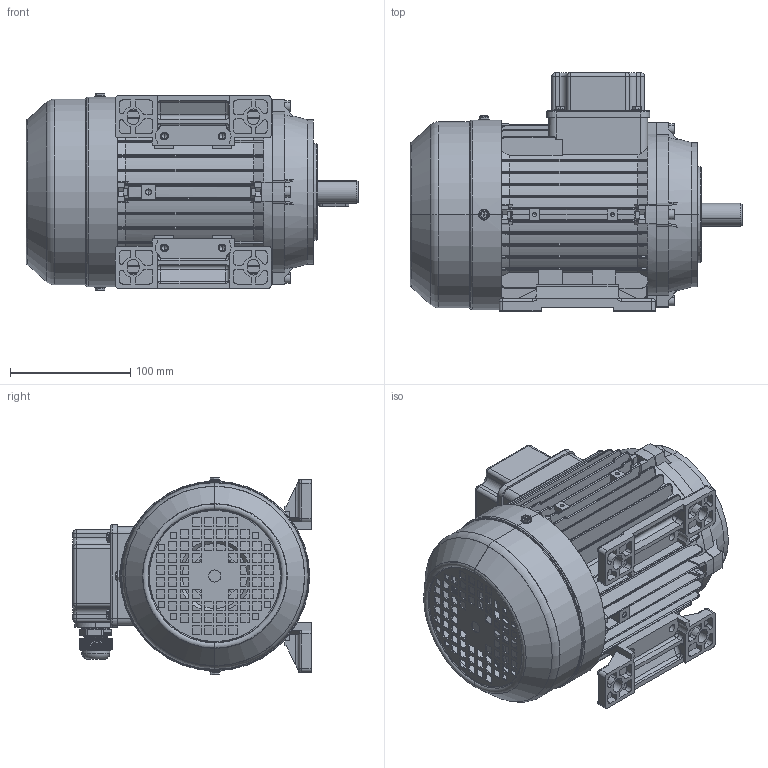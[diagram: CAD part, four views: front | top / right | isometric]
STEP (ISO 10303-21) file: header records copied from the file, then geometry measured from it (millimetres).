
FILE_DESCRIPTION (( 'STEP AP203' ), '1' );
FILE_NAME ('MSL80 assembly B34.STEP', '2017-11-26T09:41:19', ( 'user' ), ( 'china' ), 'SwSTEP 2.0', 'SolidWorks 2016', '' );
FILE_SCHEMA (( 'CONFIG_CONTROL_DESIGN' ));
Length unit declared in the file: millimetre
Products named in the file (14): M80傷裔B14; M80菁褐; MSL80-90堤盄碟蚾饜; M80瑞欶_076; MS80 綴裔瑞欶郪磁; M20 cable gland; MSL80 assembly B34; GB-T 5780-2000 M5_020; MSL80-90堤盄碟_MSL80-90; M80-Shaft drive end; MSL80-儂褲; GB-T 70.1-2000 M5_20; M80傷裔B3_Post; GB-T 29.2-1988 M4鞠褒坋趼湍菜_05
Assembly tree (26 placements, depth 3):
  MSL80 assembly B34
    MSL80-儂褲
    MS80 綴裔瑞欶郪磁
      M80傷裔B3_Post
      M80瑞欶_076
      GB-T 29.2-1988 M4鞠褒坋趼湍菜_05  x3
    MSL80-90堤盄碟蚾饜
      MSL80-90堤盄碟_MSL80-90
      GB-T 29.2-1988 M4鞠褒坋趼湍菜_05  x4
      M20 cable gland
    GB-T 70.1-2000 M5_20  x4
    GB-T 5780-2000 M5_020  x4
    M80-Shaft drive end
    M80菁褐  x2
    M80傷裔B14
Bounding box: 276 x 198 x 164.4 mm (x, y, z)
Volume: 715497.8 mm3; surface area: 535879.9 mm2
Topology: 24 solids, 24 shells, 3394 faces, 8750 edges, 5447 vertices
Faces by surface type: plane 1572, cylinder 1109, bspline 236, torus 234, cone 227, sphere 16
Entity records: 112358 total; most frequent: CARTESIAN_POINT 42756, ORIENTED_EDGE 14818, DIRECTION 13360, EDGE_CURVE 7409, AXIS2_PLACEMENT_3D 4702, VERTEX_POINT 4694, VECTOR 3956, LINE 3956
